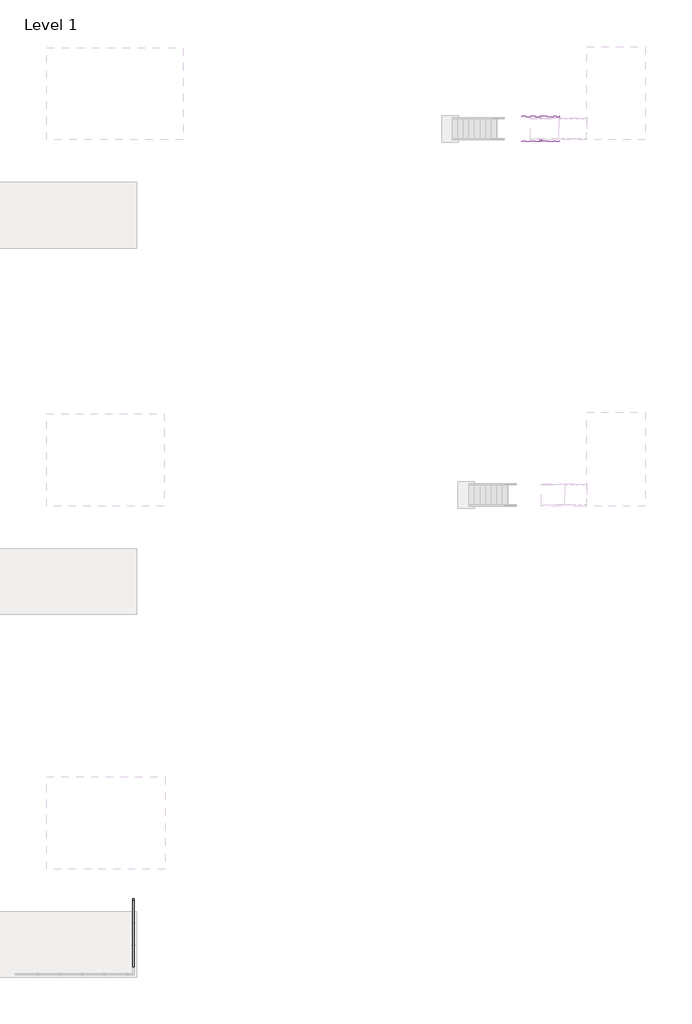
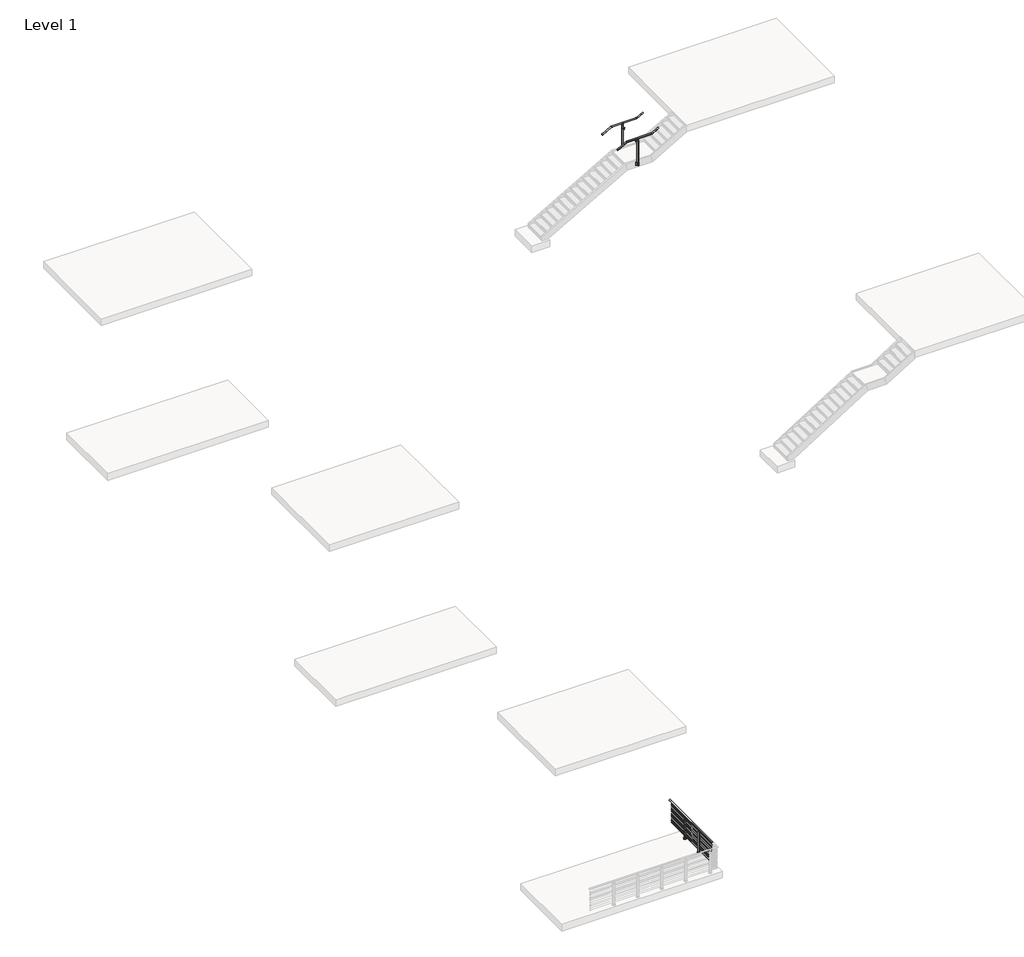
# One storey, part 15 of 26: 3 railings.
"""IFC4 building model written with IfcOpenShell, lengths in millimetres."""

from ifc_helpers import new_model, si_unit, point, frame, frame_2d, origin, origin_with_axes, place, context, project, spatial, polyline, circle_curve, ellipse_curve, trimmed, segment, composite_curve, outline, extrude, faceted_brep, element, save
from ifc_brep_helpers import plane_surface, cylinder_surface, advanced_brep

model = new_model("IFC4")

# Units and contexts
model_context = context("Model", 3, world=origin())
ifc_project = project(units=[si_unit("LENGTHUNIT", "METRE", prefix="MILLI")], contexts=[model_context])

# Site, building, storey
site = spatial("IfcSite", under=ifc_project)
building = spatial("IfcBuilding", under=site)
storey = spatial("IfcBuildingStorey", under=building, Name="Level 1", Elevation=0.0)

# Railings
placement = place(None, origin())
element("IfcRailing", 1, ObjectType="VIVA-CUBE-Cable-Core Mount-Straight", at=placement, inside=storey, context=model_context, shape_type="SolidModel", body=[
    advanced_brep(
    [(69909.4592968, -56726.8365969, 1054.1), (69858.6592968, -56726.8365969, 1054.1), (69909.4592968, -53678.8365969, 1054.1), (69858.6592968, -53678.8365969, 1054.1), (69909.4592968, -53577.2365969, 1054.1), (69858.6592968, -53577.2365969, 1054.1)],
    [
        (0, 1, circle_curve(frame((69884.0592968, -56726.8365969, 1054.1), z_axis=(0.0, -1.0, 0.0), x_axis=(-1.0, 0.0, 0.0)), 25.4)),
        (1, 0, circle_curve(frame((69884.0592968, -56726.8365969, 1054.1), z_axis=(0.0, -1.0, 0.0), x_axis=(-1.0, 0.0, 0.0)), 25.4)),
        (0, 2),
        (2, 3, circle_curve(frame((69884.0592968, -53678.8365969, 1054.1), z_axis=(0.0, -1.0, 0.0), x_axis=(-1.0, 0.0, 0.0)), 25.4)),
        (3, 1),
        (3, 2, circle_curve(frame((69884.0592968, -53678.8365969, 1054.1), z_axis=(0.0, -1.0, 0.0), x_axis=(-1.0, 0.0, 0.0)), 25.4)),
        (4, 5, circle_curve(frame((69884.0592968, -53577.2365969, 1054.1), z_axis=(0.0, 1.0, 0.0), x_axis=(-1.0, 0.0, 0.0)), 25.4)),
        (5, 4, circle_curve(frame((69884.0592968, -53577.2365969, 1054.1), z_axis=(0.0, 1.0, 0.0), x_axis=(-1.0, 0.0, 0.0)), 25.4)),
        (2, 4),
        (5, 3),
    ],
    [
        plane_surface(frame((69884.0592968, -56726.8365969, 1079.5), z_axis=(0.0, -1.0, 0.0), x_axis=(0.0, 0.0, 1.0))),
        cylinder_surface(frame((69884.0592968, -56726.8365969, 1054.1), z_axis=(0.0, -1.0, 0.0), x_axis=(-1.0, 0.0, 0.0)), 25.4),
        plane_surface(frame((69884.0592968, -53577.2365969, 1079.5), z_axis=(0.0, 1.0, 0.0), x_axis=(0.0, 0.0, 1.0))),
        cylinder_surface(frame((69884.0592968, -53678.8365969, 1054.1), z_axis=(0.0, -1.0, 0.0), x_axis=(-1.0, 0.0, 0.0)), 25.4),
    ],
    [
        (0, [[1, 2]]),
        (1, [[-1, 3, 4, 5]]),
        (1, [[-2, -5, 6, -3]]),
        (2, [[7, 8]]),
        (3, [[-4, 9, -8, 10]]),
        (3, [[-6, -10, -7, -9]]),
    ],
),
    extrude(outline(composite_curve([segment(trimmed(circle_curve(frame_2d((937.4124, 69884.0592968)), 2.3876), [point((937.4124, 69881.6716968))], [point((937.4124, 69886.4468968))], False, "CARTESIAN"), True, "CONTINUOUS"), segment(trimmed(circle_curve(frame_2d((937.4124, 69884.0592968)), 2.3876), [point((937.4124, 69886.4468968))], [point((937.4124, 69881.6716968))], False, "CARTESIAN"), True, "CONTINUOUS")], self_intersect=False)), frame((0.0, -56726.8365969, 0.0), z_axis=(0.0, 1.0, 0.0), x_axis=(0.0, 0.0, 1.0)), (0.0, 0.0, 1.0), 3048.0),
    extrude(outline(composite_curve([segment(trimmed(circle_curve(frame_2d((854.8624, 69884.0592968)), 2.3876), [point((854.8624, 69881.6716968))], [point((854.8624, 69886.4468968))], False, "CARTESIAN"), True, "CONTINUOUS"), segment(trimmed(circle_curve(frame_2d((854.8624, 69884.0592968)), 2.3876), [point((854.8624, 69886.4468968))], [point((854.8624, 69881.6716968))], False, "CARTESIAN"), True, "CONTINUOUS")], self_intersect=False)), frame((0.0, -56726.8365969, 0.0), z_axis=(0.0, 1.0, 0.0), x_axis=(0.0, 0.0, 1.0)), (0.0, 0.0, 1.0), 3048.0),
    extrude(outline(composite_curve([segment(trimmed(circle_curve(frame_2d((772.3124, 69884.0592968)), 2.3876), [point((772.3124, 69881.6716968))], [point((772.3124, 69886.4468968))], False, "CARTESIAN"), True, "CONTINUOUS"), segment(trimmed(circle_curve(frame_2d((772.3124, 69884.0592968)), 2.3876), [point((772.3124, 69886.4468968))], [point((772.3124, 69881.6716968))], False, "CARTESIAN"), True, "CONTINUOUS")], self_intersect=False)), frame((0.0, -56726.8365969, 0.0), z_axis=(0.0, 1.0, 0.0), x_axis=(0.0, 0.0, 1.0)), (0.0, 0.0, 1.0), 3048.0),
    extrude(outline(composite_curve([segment(trimmed(circle_curve(frame_2d((689.7624, 69884.0592968)), 2.3876), [point((689.7624, 69881.6716968))], [point((689.7624, 69886.4468968))], False, "CARTESIAN"), True, "CONTINUOUS"), segment(trimmed(circle_curve(frame_2d((689.7624, 69884.0592968)), 2.3876), [point((689.7624, 69886.4468968))], [point((689.7624, 69881.6716968))], False, "CARTESIAN"), True, "CONTINUOUS")], self_intersect=False)), frame((0.0, -56726.8365969, 0.0), z_axis=(0.0, 1.0, 0.0), x_axis=(0.0, 0.0, 1.0)), (0.0, 0.0, 1.0), 3048.0),
    extrude(outline(composite_curve([segment(trimmed(circle_curve(frame_2d((607.2124, 69884.0592968)), 2.3876), [point((607.2124, 69881.6716968))], [point((607.2124, 69886.4468968))], False, "CARTESIAN"), True, "CONTINUOUS"), segment(trimmed(circle_curve(frame_2d((607.2124, 69884.0592968)), 2.3876), [point((607.2124, 69886.4468968))], [point((607.2124, 69881.6716968))], False, "CARTESIAN"), True, "CONTINUOUS")], self_intersect=False)), frame((0.0, -56726.8365969, 0.0), z_axis=(0.0, 1.0, 0.0), x_axis=(0.0, 0.0, 1.0)), (0.0, 0.0, 1.0), 3048.0),
    extrude(outline(composite_curve([segment(trimmed(circle_curve(frame_2d((524.6624, 69884.0592968)), 2.3876), [point((524.6624, 69881.6716968))], [point((524.6624, 69886.4468968))], False, "CARTESIAN"), True, "CONTINUOUS"), segment(trimmed(circle_curve(frame_2d((524.6624, 69884.0592968)), 2.3876), [point((524.6624, 69886.4468968))], [point((524.6624, 69881.6716968))], False, "CARTESIAN"), True, "CONTINUOUS")], self_intersect=False)), frame((0.0, -56726.8365969, 0.0), z_axis=(0.0, 1.0, 0.0), x_axis=(0.0, 0.0, 1.0)), (0.0, 0.0, 1.0), 3048.0),
    extrude(outline(composite_curve([segment(trimmed(circle_curve(frame_2d((442.1124, 69884.0592968)), 2.3876), [point((442.1124, 69881.6716968))], [point((442.1124, 69886.4468968))], False, "CARTESIAN"), True, "CONTINUOUS"), segment(trimmed(circle_curve(frame_2d((442.1124, 69884.0592968)), 2.3876), [point((442.1124, 69886.4468968))], [point((442.1124, 69881.6716968))], False, "CARTESIAN"), True, "CONTINUOUS")], self_intersect=False)), frame((0.0, -56726.8365969, 0.0), z_axis=(0.0, 1.0, 0.0), x_axis=(0.0, 0.0, 1.0)), (0.0, 0.0, 1.0), 3048.0),
    extrude(outline(composite_curve([segment(trimmed(circle_curve(frame_2d((359.5624, 69884.0592968)), 2.3876), [point((359.5624, 69881.6716968))], [point((359.5624, 69886.4468968))], False, "CARTESIAN"), True, "CONTINUOUS"), segment(trimmed(circle_curve(frame_2d((359.5624, 69884.0592968)), 2.3876), [point((359.5624, 69886.4468968))], [point((359.5624, 69881.6716968))], False, "CARTESIAN"), True, "CONTINUOUS")], self_intersect=False)), frame((0.0, -56726.8365969, 0.0), z_axis=(0.0, 1.0, 0.0), x_axis=(0.0, 0.0, 1.0)), (0.0, 0.0, 1.0), 3048.0),
    extrude(outline(composite_curve([segment(trimmed(circle_curve(frame_2d((277.0124, 69884.0592968)), 2.3876), [point((277.0124, 69881.6716968))], [point((277.0124, 69886.4468968))], False, "CARTESIAN"), True, "CONTINUOUS"), segment(trimmed(circle_curve(frame_2d((277.0124, 69884.0592968)), 2.3876), [point((277.0124, 69886.4468968))], [point((277.0124, 69881.6716968))], False, "CARTESIAN"), True, "CONTINUOUS")], self_intersect=False)), frame((0.0, -56726.8365969, 0.0), z_axis=(0.0, 1.0, 0.0), x_axis=(0.0, 0.0, 1.0)), (0.0, 0.0, 1.0), 3048.0),
    extrude(outline(composite_curve([segment(trimmed(circle_curve(frame_2d((194.4624, 69884.0592968)), 2.3876), [point((194.4624, 69881.6716968))], [point((194.4624, 69886.4468968))], False, "CARTESIAN"), True, "CONTINUOUS"), segment(trimmed(circle_curve(frame_2d((194.4624, 69884.0592968)), 2.3876), [point((194.4624, 69886.4468968))], [point((194.4624, 69881.6716968))], False, "CARTESIAN"), True, "CONTINUOUS")], self_intersect=False)), frame((0.0, -56726.8365969, 0.0), z_axis=(0.0, 1.0, 0.0), x_axis=(0.0, 0.0, 1.0)), (0.0, 0.0, 1.0), 3048.0),
    extrude(outline(composite_curve([segment(trimmed(circle_curve(frame_2d((111.9124, 69884.0592968)), 2.3876), [point((111.9124, 69881.6716968))], [point((111.9124, 69886.4468968))], False, "CARTESIAN"), True, "CONTINUOUS"), segment(trimmed(circle_curve(frame_2d((111.9124, 69884.0592968)), 2.3876), [point((111.9124, 69886.4468968))], [point((111.9124, 69881.6716968))], False, "CARTESIAN"), True, "CONTINUOUS")], self_intersect=False)), frame((0.0, -56726.8365969, 0.0), z_axis=(0.0, 1.0, 0.0), x_axis=(0.0, 0.0, 1.0)), (0.0, 0.0, 1.0), 3048.0),
    extrude(outline(composite_curve([segment(trimmed(circle_curve(frame_2d((69884.0592968, -54694.4397219)), 63.5), [point((69947.5592968, -54694.4397219))], [point((69820.5592968, -54694.4397219))], False, "CARTESIAN"), True, "CONTINUOUS"), segment(trimmed(circle_curve(frame_2d((69884.0592968, -54694.4397219)), 63.5), [point((69820.5592968, -54694.4397219))], [point((69947.5592968, -54694.4397219))], False, "CARTESIAN"), True, "CONTINUOUS")], self_intersect=False), holes=[composite_curve([segment(trimmed(circle_curve(frame_2d((69919.5290406, -54729.9094657)), 4.7625), [point((69924.2915406, -54729.9094657))], [point((69914.7665406, -54729.9094657))], True, "CARTESIAN"), True, "CONTINUOUS"), segment(trimmed(circle_curve(frame_2d((69919.5290406, -54729.9094657)), 4.7625), [point((69914.7665406, -54729.9094657))], [point((69924.2915406, -54729.9094657))], True, "CARTESIAN"), True, "CONTINUOUS")], self_intersect=False), composite_curve([segment(trimmed(circle_curve(frame_2d((69848.5895529, -54729.9094657)), 4.7625), [point((69853.3520529, -54729.9094657))], [point((69843.8270529, -54729.9094657))], True, "CARTESIAN"), True, "CONTINUOUS"), segment(trimmed(circle_curve(frame_2d((69848.5895529, -54729.9094657)), 4.7625), [point((69843.8270529, -54729.9094657))], [point((69853.3520529, -54729.9094657))], True, "CARTESIAN"), True, "CONTINUOUS")], self_intersect=False), composite_curve([segment(trimmed(circle_curve(frame_2d((69919.5290406, -54658.969978)), 4.7625), [point((69924.2915406, -54658.969978))], [point((69914.7665406, -54658.969978))], True, "CARTESIAN"), True, "CONTINUOUS"), segment(trimmed(circle_curve(frame_2d((69919.5290406, -54658.969978)), 4.7625), [point((69914.7665406, -54658.969978))], [point((69924.2915406, -54658.969978))], True, "CARTESIAN"), True, "CONTINUOUS")], self_intersect=False), composite_curve([segment(trimmed(circle_curve(frame_2d((69848.5895529, -54658.969978)), 4.7625), [point((69853.3520529, -54658.969978))], [point((69843.8270529, -54658.969978))], True, "CARTESIAN"), True, "CONTINUOUS"), segment(trimmed(circle_curve(frame_2d((69848.5895529, -54658.969978)), 4.7625), [point((69843.8270529, -54658.969978))], [point((69853.3520529, -54658.969978))], True, "CARTESIAN"), True, "CONTINUOUS")], self_intersect=False)]), origin_with_axes(), (0.0, 0.0, 1.0), 25.4),
    faceted_brep([(69871.3592968, -54681.7397219, 997.2902749), (69871.3592968, -54707.1397219, 997.2902749), (69880.0905468, -54707.1397219, 997.2902749), (69880.0905468, -54681.7397219, 997.2902749), (69896.7592968, -54707.1397219, 997.2902749), (69896.7592968, -54681.7397219, 997.2902749), (69888.0280468, -54681.7397219, 997.2902749), (69888.0280468, -54707.1397219, 997.2902749), (69858.6592968, -54669.0397219, 941.1347854), (69909.4592968, -54669.0397219, 941.1347854), (69858.6592968, -54719.8397219, 941.1347854), (69909.4592968, -54719.8397219, 941.1347854), (69858.6592968, -54669.0397219, -88.9), (69909.4592968, -54669.0397219, -88.9), (69909.4592968, -54719.8397219, -88.9), (69858.6592968, -54719.8397219, -88.9), (69888.0280468, -54707.1397219, 1009.3306013), (69888.0280468, -54681.7397219, 1009.3306013), (69880.0905468, -54681.7397219, 1009.3306013), (69880.0905468, -54707.1397219, 1009.3306013)], [[[0, 1, 2, 3]], [[4, 5, 6, 7]], [[8, 0, 3, 6, 5, 9]], [[1, 0, 8, 10]], [[1, 10, 11, 4, 7, 2]], [[5, 4, 11, 9]], [[12, 13, 14, 15]], [[12, 15, 10, 8]], [[15, 14, 11, 10]], [[14, 13, 9, 11]], [[13, 12, 8, 9]], [[16, 17, 18, 19]], [[17, 16, 7, 6]], [[18, 17, 6, 3]], [[19, 18, 3, 2]], [[16, 19, 2, 7]]]),
    extrude(outline(composite_curve([segment(trimmed(circle_curve(frame_2d((1054.1433184, 69883.9625684)), 25.4345159), [point((1032.0284941, 69896.5263713))], [point((1031.9335733, 69871.5673346))], True, "CARTESIAN"), True, "CONTINUOUS"), segment(trimmed(circle_curve(frame_2d((1029.4310885, 69870.3226815)), 2.7949225), [point((1031.9335733, 69871.5673346))], [point((1027.0585031, 69868.8453764))], False, "CARTESIAN"), True, "CONTINUOUS"), segment(trimmed(circle_curve(frame_2d((1054.905945, 69884.0960315)), 31.75), [point((1027.0585031, 69868.8453764))], [point((1027.6392616, 69900.3622687))], False, "CARTESIAN"), True, "CONTINUOUS"), segment(trimmed(circle_curve(frame_2d((1029.5101807, 69898.073929)), 2.9558141), [point((1027.6392616, 69900.3622687))], [point((1032.0284941, 69896.5263713))], False, "CARTESIAN"), True, "CONTINUOUS")], self_intersect=False)), frame((0.0, -54739.6771219, 0.0), z_axis=(0.0, 1.0, 0.0), x_axis=(0.0, 0.0, 1.0)), (0.0, 0.0, 1.0), 90.4748),
    extrude(outline(composite_curve([segment(trimmed(circle_curve(frame_2d((-54667.371807, 1009.0006022)), 14.3679149), [point((-54667.371807, 1023.3685171))], [point((-54681.7397219, 1009.0006022))], True, "CARTESIAN"), True, "CONTINUOUS"), segment(trimmed(circle_curve(frame_2d((-54694.4397219, 1009.0006022)), 12.7), [point((-54681.7397219, 1009.0006022))], [point((-54707.1397219, 1009.0006022))], False, "CARTESIAN"), True, "CONTINUOUS"), segment(trimmed(circle_curve(frame_2d((-54721.5076367, 1009.0006022)), 14.3679149), [point((-54707.1397219, 1009.0006022))], [point((-54721.5076367, 1023.3685171))], True, "CARTESIAN"), True, "CONTINUOUS"), segment(polyline([(-54721.5076367, 1023.3685171), (-54667.371807, 1023.3685171)]), True, "CONTINUOUS")], self_intersect=False)), frame((69881.5192968, 0.0, 0.0), z_axis=(1.0, 0.0, 0.0), x_axis=(0.0, 1.0, 0.0)), (0.0, 0.0, 1.0), 5.08),
    extrude(outline(composite_curve([segment(trimmed(circle_curve(frame_2d((69884.0592968, -55710.4397219)), 63.5), [point((69947.5592968, -55710.4397219))], [point((69820.5592968, -55710.4397219))], False, "CARTESIAN"), True, "CONTINUOUS"), segment(trimmed(circle_curve(frame_2d((69884.0592968, -55710.4397219)), 63.5), [point((69820.5592968, -55710.4397219))], [point((69947.5592968, -55710.4397219))], False, "CARTESIAN"), True, "CONTINUOUS")], self_intersect=False), holes=[composite_curve([segment(trimmed(circle_curve(frame_2d((69919.5290406, -55745.9094657)), 4.7625), [point((69924.2915406, -55745.9094657))], [point((69914.7665406, -55745.9094657))], True, "CARTESIAN"), True, "CONTINUOUS"), segment(trimmed(circle_curve(frame_2d((69919.5290406, -55745.9094657)), 4.7625), [point((69914.7665406, -55745.9094657))], [point((69924.2915406, -55745.9094657))], True, "CARTESIAN"), True, "CONTINUOUS")], self_intersect=False), composite_curve([segment(trimmed(circle_curve(frame_2d((69848.5895529, -55745.9094657)), 4.7625), [point((69853.3520529, -55745.9094657))], [point((69843.8270529, -55745.9094657))], True, "CARTESIAN"), True, "CONTINUOUS"), segment(trimmed(circle_curve(frame_2d((69848.5895529, -55745.9094657)), 4.7625), [point((69843.8270529, -55745.9094657))], [point((69853.3520529, -55745.9094657))], True, "CARTESIAN"), True, "CONTINUOUS")], self_intersect=False), composite_curve([segment(trimmed(circle_curve(frame_2d((69919.5290406, -55674.969978)), 4.7625), [point((69924.2915406, -55674.969978))], [point((69914.7665406, -55674.969978))], True, "CARTESIAN"), True, "CONTINUOUS"), segment(trimmed(circle_curve(frame_2d((69919.5290406, -55674.969978)), 4.7625), [point((69914.7665406, -55674.969978))], [point((69924.2915406, -55674.969978))], True, "CARTESIAN"), True, "CONTINUOUS")], self_intersect=False), composite_curve([segment(trimmed(circle_curve(frame_2d((69848.5895529, -55674.969978)), 4.7625), [point((69853.3520529, -55674.969978))], [point((69843.8270529, -55674.969978))], True, "CARTESIAN"), True, "CONTINUOUS"), segment(trimmed(circle_curve(frame_2d((69848.5895529, -55674.969978)), 4.7625), [point((69843.8270529, -55674.969978))], [point((69853.3520529, -55674.969978))], True, "CARTESIAN"), True, "CONTINUOUS")], self_intersect=False)]), origin_with_axes(), (0.0, 0.0, 1.0), 25.4),
    faceted_brep([(69871.3592968, -55697.7397219, 997.2902749), (69871.3592968, -55723.1397219, 997.2902749), (69880.0905468, -55723.1397219, 997.2902749), (69880.0905468, -55697.7397219, 997.2902749), (69896.7592968, -55723.1397219, 997.2902749), (69896.7592968, -55697.7397219, 997.2902749), (69888.0280468, -55697.7397219, 997.2902749), (69888.0280468, -55723.1397219, 997.2902749), (69858.6592968, -55685.0397219, 941.1347854), (69909.4592968, -55685.0397219, 941.1347854), (69858.6592968, -55735.8397219, 941.1347854), (69909.4592968, -55735.8397219, 941.1347854), (69858.6592968, -55685.0397219, -88.9), (69909.4592968, -55685.0397219, -88.9), (69909.4592968, -55735.8397219, -88.9), (69858.6592968, -55735.8397219, -88.9), (69888.0280468, -55723.1397219, 1009.3306013), (69888.0280468, -55697.7397219, 1009.3306013), (69880.0905468, -55697.7397219, 1009.3306013), (69880.0905468, -55723.1397219, 1009.3306013)], [[[0, 1, 2, 3]], [[4, 5, 6, 7]], [[8, 0, 3, 6, 5, 9]], [[1, 0, 8, 10]], [[1, 10, 11, 4, 7, 2]], [[5, 4, 11, 9]], [[12, 13, 14, 15]], [[12, 15, 10, 8]], [[15, 14, 11, 10]], [[14, 13, 9, 11]], [[13, 12, 8, 9]], [[16, 17, 18, 19]], [[17, 16, 7, 6]], [[18, 17, 6, 3]], [[19, 18, 3, 2]], [[16, 19, 2, 7]]]),
    extrude(outline(composite_curve([segment(trimmed(circle_curve(frame_2d((1054.1433184, 69883.9625684)), 25.4345159), [point((1032.0284941, 69896.5263713))], [point((1031.9335733, 69871.5673346))], True, "CARTESIAN"), True, "CONTINUOUS"), segment(trimmed(circle_curve(frame_2d((1029.4310885, 69870.3226815)), 2.7949225), [point((1031.9335733, 69871.5673346))], [point((1027.0585031, 69868.8453764))], False, "CARTESIAN"), True, "CONTINUOUS"), segment(trimmed(circle_curve(frame_2d((1054.905945, 69884.0960315)), 31.75), [point((1027.0585031, 69868.8453764))], [point((1027.6392616, 69900.3622687))], False, "CARTESIAN"), True, "CONTINUOUS"), segment(trimmed(circle_curve(frame_2d((1029.5101807, 69898.073929)), 2.9558141), [point((1027.6392616, 69900.3622687))], [point((1032.0284941, 69896.5263713))], False, "CARTESIAN"), True, "CONTINUOUS")], self_intersect=False)), frame((0.0, -55755.6771219, 0.0), z_axis=(0.0, 1.0, 0.0), x_axis=(0.0, 0.0, 1.0)), (0.0, 0.0, 1.0), 90.4748),
    extrude(outline(composite_curve([segment(trimmed(circle_curve(frame_2d((-55683.371807, 1009.0006022)), 14.3679149), [point((-55683.371807, 1023.3685171))], [point((-55697.7397219, 1009.0006022))], True, "CARTESIAN"), True, "CONTINUOUS"), segment(trimmed(circle_curve(frame_2d((-55710.4397219, 1009.0006022)), 12.7), [point((-55697.7397219, 1009.0006022))], [point((-55723.1397219, 1009.0006022))], False, "CARTESIAN"), True, "CONTINUOUS"), segment(trimmed(circle_curve(frame_2d((-55737.5076367, 1009.0006022)), 14.3679149), [point((-55723.1397219, 1009.0006022))], [point((-55737.5076367, 1023.3685171))], True, "CARTESIAN"), True, "CONTINUOUS"), segment(polyline([(-55737.5076367, 1023.3685171), (-55683.371807, 1023.3685171)]), True, "CONTINUOUS")], self_intersect=False)), frame((69881.5192968, 0.0, 0.0), z_axis=(1.0, 0.0, 0.0), x_axis=(0.0, 1.0, 0.0)), (0.0, 0.0, 1.0), 5.08),
])
element("IfcRailing", 2, ObjectType="VIVA-CUBE-Wire Mesh-Fascia Mount-Stair-Landing", at=placement, inside=storey, context=model_context, shape_type="SolidModel", body=[
    advanced_brep(
    [(87644.1145262, -17874.6446002, 3009.6740933), (87644.1145262, -17823.8446002, 3009.6740933), (88031.8598629, -17874.6446002, 3231.2428571), (88031.8598629, -17823.8446002, 3231.2428571), (89098.6598629, -17874.6446002, 3231.2428571), (89098.6598629, -17823.8446002, 3231.2428571), (89368.1395262, -17874.6446002, 3385.2312362), (89368.1395262, -17823.8446002, 3385.2312362)],
    [
        (0, 1, ellipse_curve(frame((87644.1145262, -17849.2446002, 3009.6740933), z_axis=(-1.0, 0.0, 0.0), x_axis=(0.0, 0.0, -1.0)), 29.2544781, 25.4)),
        (1, 0, ellipse_curve(frame((87644.1145262, -17849.2446002, 3009.6740933), z_axis=(-1.0, 0.0, 0.0), x_axis=(0.0, 0.0, -1.0)), 29.2544781, 25.4)),
        (0, 2),
        (2, 3, ellipse_curve(frame((88031.8598629, -17849.2446002, 3231.2428571), z_axis=(-0.966499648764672, 0.0, -0.25666793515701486), x_axis=(0.2566679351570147, 0.0, -0.966499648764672)), 26.2804027, 25.4)),
        (3, 1),
        (3, 2, ellipse_curve(frame((88031.8598629, -17849.2446002, 3231.2428571), z_axis=(-0.966499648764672, 0.0, -0.25666793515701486), x_axis=(0.2566679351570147, 0.0, -0.966499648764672)), 26.2804027, 25.4)),
        (2, 4),
        (4, 5, ellipse_curve(frame((89098.6598629, -17849.2446002, 3231.2428571), z_axis=(-0.9664996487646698, 0.0, -0.2566679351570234), x_axis=(-0.2566679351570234, 0.0, 0.9664996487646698)), 26.2804027, 25.4)),
        (5, 3),
        (5, 4, ellipse_curve(frame((89098.6598629, -17849.2446002, 3231.2428571), z_axis=(-0.9664996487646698, 0.0, -0.2566679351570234), x_axis=(-0.2566679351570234, 0.0, 0.9664996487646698)), 26.2804027, 25.4)),
        (6, 7, ellipse_curve(frame((89368.1395262, -17849.2446002, 3385.2312362), z_axis=(1.0, 0.0, 0.0), x_axis=(0.0, 0.0, -1.0)), 29.2544781, 25.4)),
        (7, 6, ellipse_curve(frame((89368.1395262, -17849.2446002, 3385.2312362), z_axis=(1.0, 0.0, 0.0), x_axis=(0.0, 0.0, -1.0)), 29.2544781, 25.4)),
        (4, 6),
        (7, 5),
    ],
    [
        plane_surface(frame((87644.1145262, -17849.2446002, 3038.9285714), z_axis=(-1.0, 0.0, 0.0), x_axis=(0.0, 1.0, 0.0))),
        cylinder_surface(frame((87656.7164552, -17849.2446002, 3016.8751956), z_axis=(-0.868243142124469, 0.0, -0.49613893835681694), x_axis=(0.0, 1.0, 0.0)), 25.4),
        cylinder_surface(frame((88025.1145262, -17849.2446002, 3231.2428571), z_axis=(-1.0, 0.0, 0.0), x_axis=(0.0, 1.0, 0.0)), 25.4),
        plane_surface(frame((89368.1395262, -17849.2446002, 3414.4857143), z_axis=(1.0, 0.0, 0.0), x_axis=(0.0, 1.0, 0.0))),
        cylinder_surface(frame((89104.5164552, -17849.2446002, 3234.5894813), z_axis=(-0.8682431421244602, 0.0, -0.4961389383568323), x_axis=(0.0, 1.0, 0.0)), 25.4),
    ],
    [
        (0, [[1, 2]]),
        (1, [[-1, 3, 4, 5]]),
        (1, [[-2, -5, 6, -3]]),
        (2, [[-4, 7, 8, 9]]),
        (2, [[-6, -9, 10, -7]]),
        (3, [[11, 12]]),
        (4, [[-8, 13, -12, 14]]),
        (4, [[-10, -14, -11, -13]]),
    ],
),
    extrude(outline(composite_curve([segment(trimmed(circle_curve(frame_2d((0.0, 7.0)), 7.0), [point((0.0, 14.0))], [point((0.0, 0.0))], False, "CARTESIAN"), True, "CONTINUOUS"), segment(trimmed(circle_curve(frame_2d((0.0, 7.0)), 7.0), [point((0.0, 0.0))], [point((0.0, 14.0))], False, "CARTESIAN"), True, "CONTINUOUS")], self_intersect=False)), frame((88506.6192867, -17934.9284259, 2972.3156836), z_axis=(-0.0012555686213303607, 0.0, 0.999999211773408), x_axis=(-0.999999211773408, 0.0, -0.0012555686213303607)), (0.0, 0.0, 1.0), 75.97),
    extrude(outline(composite_curve([segment(polyline([(-17929.6467697, 3056.8509005), (-17928.6203801, 3055.8335135)]), True, "CONTINUOUS"), segment(trimmed(circle_curve(frame_2d((-17929.676358, 3054.7681916)), 1.5), [point((-17928.6203801, 3055.8335135))], [point((-17928.6909565, 3053.6372698))], False, "CARTESIAN"), True, "CONTINUOUS"), segment(trimmed(circle_curve(frame_2d((-17943.176358, 3070.2618193)), 22.05), [point((-17928.6909565, 3053.6372698))], [point((-17957.6617594, 3053.6372698))], False, "CARTESIAN"), True, "CONTINUOUS"), segment(trimmed(circle_curve(frame_2d((-17956.676358, 3054.7681916)), 1.5), [point((-17957.6617594, 3053.6372698))], [point((-17957.7323358, 3055.8335135))], False, "CARTESIAN"), True, "CONTINUOUS"), segment(polyline([(-17957.7323358, 3055.8335135), (-17956.7059462, 3056.8509005)]), True, "CONTINUOUS"), segment(trimmed(circle_curve(frame_2d((-17943.176358, 3070.2618193)), 19.05), [point((-17956.7059462, 3056.8509005))], [point((-17929.6467697, 3056.8509005))], True, "CARTESIAN"), True, "CONTINUOUS")], self_intersect=False)), frame((88468.4477528, 0.0, 0.0), z_axis=(1.0, 0.0, 0.0), x_axis=(0.0, 1.0, 0.0)), (0.0, 0.0, 1.0), 74.5229187),
    extrude(outline(composite_curve([segment(trimmed(circle_curve(frame_2d((2999.1922796, 88506.5593832)), 12.5), [point((2999.1922796, 88519.0593832))], [point((2999.1922796, 88494.0593832))], False, "CARTESIAN"), True, "CONTINUOUS"), segment(trimmed(circle_curve(frame_2d((2999.1922796, 88506.5593832)), 12.5), [point((2999.1922796, 88494.0593832))], [point((2999.1922796, 88519.0593832))], False, "CARTESIAN"), True, "CONTINUOUS")], self_intersect=False)), frame((0.0, -17956.7059462, 0.0), z_axis=(0.0, 1.0, 0.0), x_axis=(0.0, 0.0, 1.0)), (0.0, 0.0, 1.0), 82.061346),
    extrude(outline(polyline([(88570.0239012, -17903.7576358), (88443.0239012, -17903.7576358), (88443.0239012, -17893.7754358), (88570.0239012, -17893.7754358), (88570.0239012, -17903.7576358)])), frame((0.0, 0.0, 1999.3428571), z_axis=(0.0, 0.0, 1.0), x_axis=(1.0, 0.0, 0.0)), (0.0, 0.0, 1.0), 152.4),
    extrude(outline(composite_curve([segment(polyline([(2151.7428571, 88567.4839012), (2151.7428571, 88445.5639012)]), True, "CONTINUOUS"), segment(trimmed(circle_curve(frame_2d((2149.2028571, 88445.5639012)), 2.54), [point((2151.7428571, 88445.5639012))], [point((2149.2028571, 88443.0239012))], False, "CARTESIAN"), True, "CONTINUOUS"), segment(polyline([(2149.2028571, 88443.0239012), (2001.8828571, 88443.0239012)]), True, "CONTINUOUS"), segment(trimmed(circle_curve(frame_2d((2001.8828571, 88445.5639012)), 2.54), [point((2001.8828571, 88443.0239012))], [point((1999.3428571, 88445.5639012))], False, "CARTESIAN"), True, "CONTINUOUS"), segment(polyline([(1999.3428571, 88445.5639012), (1999.3428571, 88567.4839012)]), True, "CONTINUOUS"), segment(trimmed(circle_curve(frame_2d((2001.8828571, 88567.4839012)), 2.54), [point((1999.3428571, 88567.4839012))], [point((2001.8828571, 88570.0239012))], False, "CARTESIAN"), True, "CONTINUOUS"), segment(polyline([(2001.8828571, 88570.0239012), (2149.2028571, 88570.0239012)]), True, "CONTINUOUS"), segment(trimmed(circle_curve(frame_2d((2149.2028571, 88567.4839012)), 2.54), [point((2149.2028571, 88570.0239012))], [point((2151.7428571, 88567.4839012))], False, "CARTESIAN"), True, "CONTINUOUS")], self_intersect=False), holes=[composite_curve([segment(trimmed(circle_curve(frame_2d((2132.6928571, 88462.0739012)), 5.55625), [point((2132.6928571, 88467.6301512))], [point((2132.6928571, 88456.5176512))], True, "CARTESIAN"), True, "CONTINUOUS"), segment(trimmed(circle_curve(frame_2d((2132.6928571, 88462.0739012)), 5.55625), [point((2132.6928571, 88456.5176512))], [point((2132.6928571, 88467.6301512))], True, "CARTESIAN"), True, "CONTINUOUS")], self_intersect=False), composite_curve([segment(trimmed(circle_curve(frame_2d((2132.6928571, 88550.9739012)), 5.55625), [point((2132.6928571, 88556.5301512))], [point((2132.6928571, 88545.4176512))], True, "CARTESIAN"), True, "CONTINUOUS"), segment(trimmed(circle_curve(frame_2d((2132.6928571, 88550.9739012)), 5.55625), [point((2132.6928571, 88545.4176512))], [point((2132.6928571, 88556.5301512))], True, "CARTESIAN"), True, "CONTINUOUS")], self_intersect=False), composite_curve([segment(trimmed(circle_curve(frame_2d((2018.3928571, 88550.9739012)), 5.55625), [point((2018.3928571, 88556.5301512))], [point((2018.3928571, 88545.4176512))], True, "CARTESIAN"), True, "CONTINUOUS"), segment(trimmed(circle_curve(frame_2d((2018.3928571, 88550.9739012)), 5.55625), [point((2018.3928571, 88545.4176512))], [point((2018.3928571, 88556.5301512))], True, "CARTESIAN"), True, "CONTINUOUS")], self_intersect=False), composite_curve([segment(trimmed(circle_curve(frame_2d((2018.3928571, 88462.0739012)), 5.55625), [point((2018.3928571, 88467.6301512))], [point((2018.3928571, 88456.5176512))], True, "CARTESIAN"), True, "CONTINUOUS"), segment(trimmed(circle_curve(frame_2d((2018.3928571, 88462.0739012)), 5.55625), [point((2018.3928571, 88456.5176512))], [point((2018.3928571, 88467.6301512))], True, "CARTESIAN"), True, "CONTINUOUS")], self_intersect=False)]), frame((0.0, -17893.7754358, 0.0), z_axis=(0.0, 1.0, 0.0), x_axis=(0.0, 0.0, 1.0)), (0.0, 0.0, 1.0), 9.9822),
    extrude(outline(polyline([(88474.7739012, -17893.7754358), (88474.7739012, -17817.4946002), (88538.2739012, -17817.4946002), (88538.2739012, -17893.7754358), (88474.7739012, -17893.7754358)])), frame((0.0, 0.0, 2026.3303571), z_axis=(0.0, 0.0, 1.0), x_axis=(1.0, 0.0, 0.0)), (0.0, 0.0, 1.0), 9.5123),
    extrude(outline(polyline([(88474.7739012, -17893.7754358), (88474.7739012, -17817.4946002), (88538.2739012, -17817.4946002), (88538.2739012, -17893.7754358), (88474.7739012, -17893.7754358)])), frame((0.0, 0.0, 2115.2303571), z_axis=(0.0, 0.0, 1.0), x_axis=(1.0, 0.0, 0.0)), (0.0, 0.0, 1.0), 9.525),
    extrude(outline(composite_curve([segment(trimmed(circle_curve(frame_2d((2999.1922796, 88506.5593832)), 12.5), [point((2999.1922796, 88494.0593832))], [point((2999.1922796, 88519.0593832))], False, "CARTESIAN"), True, "CONTINUOUS"), segment(trimmed(circle_curve(frame_2d((2999.1922796, 88506.5593832)), 12.5), [point((2999.1922796, 88519.0593832))], [point((2999.1922796, 88494.0593832))], False, "CARTESIAN"), True, "CONTINUOUS")], self_intersect=False)), frame((0.0, -17823.8446002, 0.0), z_axis=(0.0, 1.0, 0.0), x_axis=(0.0, 0.0, 1.0)), (0.0, 0.0, 1.0), 7.62),
    faceted_brep([(88519.2239012, -17861.9446002, 3174.433132), (88519.2239012, -17853.2133502, 3174.433132), (88493.8239012, -17853.2133502, 3174.433132), (88493.8239012, -17861.9446002, 3174.433132), (88493.8239012, -17836.5446002, 3174.433132), (88493.8239012, -17845.2758502, 3174.433132), (88519.2239012, -17845.2758502, 3174.433132), (88519.2239012, -17836.5446002, 3174.433132), (88531.9239012, -17874.6446002, 3118.2776425), (88531.9239012, -17823.8446002, 3118.2776425), (88481.1239012, -17874.6446002, 3118.2776425), (88481.1239012, -17823.8446002, 3118.2776425), (88531.9239012, -17874.6446002, 2035.8426571), (88481.1239012, -17874.6446002, 2035.8426571), (88481.1239012, -17823.8446002, 2035.8426571), (88531.9239012, -17823.8446002, 2035.8426571), (88493.8239012, -17845.2758502, 3186.4734584), (88493.8239012, -17853.2133502, 3186.4734584), (88519.2239012, -17853.2133502, 3186.4734584), (88519.2239012, -17845.2758502, 3186.4734584)], [[[0, 1, 2, 3]], [[4, 5, 6, 7]], [[8, 9, 7, 6, 1, 0]], [[3, 10, 8, 0]], [[3, 2, 5, 4, 11, 10]], [[7, 9, 11, 4]], [[12, 13, 14, 15]], [[12, 8, 10, 13]], [[13, 10, 11, 14]], [[14, 11, 9, 15]], [[15, 9, 8, 12]], [[16, 17, 18, 19]], [[19, 6, 5, 16]], [[18, 1, 6, 19]], [[17, 2, 1, 18]], [[16, 5, 2, 17]]]),
    extrude(outline(composite_curve([segment(trimmed(circle_curve(frame_2d((-17835.229968, 3206.6530378)), 2.9558141), [point((-17836.7775257, 3209.1713512))], [point((-17832.9416282, 3204.7821187))], False, "CARTESIAN"), True, "CONTINUOUS"), segment(trimmed(circle_curve(frame_2d((-17849.2078655, 3232.0488022)), 31.75), [point((-17832.9416282, 3204.7821187))], [point((-17864.4585205, 3204.2013603))], False, "CARTESIAN"), True, "CONTINUOUS"), segment(trimmed(circle_curve(frame_2d((-17862.9812154, 3206.5739456)), 2.7949225), [point((-17864.4585205, 3204.2013603))], [point((-17861.7365623, 3209.0764304))], False, "CARTESIAN"), True, "CONTINUOUS"), segment(trimmed(circle_curve(frame_2d((-17849.3413285, 3231.2861755)), 25.4345159), [point((-17861.7365623, 3209.0764304))], [point((-17836.7775257, 3209.1713512))], True, "CARTESIAN"), True, "CONTINUOUS")], self_intersect=False)), frame((88461.2865012, 0.0, 0.0), z_axis=(1.0, 0.0, 0.0), x_axis=(0.0, 1.0, 0.0)), (0.0, 0.0, 1.0), 90.4748),
    extrude(outline(composite_curve([segment(polyline([(3200.5113742, 88533.5918161), (3200.5113742, 88479.4559863)]), True, "CONTINUOUS"), segment(trimmed(circle_curve(frame_2d((3186.1434593, 88479.4559863)), 14.3679149), [point((3200.5113742, 88479.4559863))], [point((3186.1434593, 88493.8239012))], True, "CARTESIAN"), True, "CONTINUOUS"), segment(trimmed(circle_curve(frame_2d((3186.1434593, 88506.5239012)), 12.7), [point((3186.1434593, 88493.8239012))], [point((3186.1434593, 88519.2239012))], False, "CARTESIAN"), True, "CONTINUOUS"), segment(trimmed(circle_curve(frame_2d((3186.1434593, 88533.5918161)), 14.3679149), [point((3186.1434593, 88519.2239012))], [point((3200.5113742, 88533.5918161))], True, "CARTESIAN"), True, "CONTINUOUS")], self_intersect=False)), frame((0.0, -17851.7846002, 0.0), z_axis=(0.0, 1.0, 0.0), x_axis=(0.0, 0.0, 1.0)), (0.0, 0.0, 1.0), 5.08),
])
element("IfcRailing", 3, ObjectType="VIVA-CUBE-Wire Mesh-Fascia Mount-Stair-Landing", at=placement, inside=storey, context=model_context, shape_type="SolidModel", body=[
    advanced_brep(
    [(87644.1145262, -18999.1534002, 3009.6740933), (87644.1145262, -18948.3534002, 3009.6740933), (88031.8598629, -18999.1534002, 3231.2428571), (88031.8598629, -18948.3534002, 3231.2428571), (89098.6598629, -18999.1534002, 3231.2428571), (89098.6598629, -18948.3534002, 3231.2428571), (89368.1395262, -18999.1534002, 3385.2312362), (89368.1395262, -18948.3534002, 3385.2312362)],
    [
        (0, 1, ellipse_curve(frame((87644.1145262, -18973.7534002, 3009.6740933), z_axis=(-1.0, 0.0, 0.0), x_axis=(0.0, 0.0, -1.0)), 29.2544781, 25.4)),
        (1, 0, ellipse_curve(frame((87644.1145262, -18973.7534002, 3009.6740933), z_axis=(-1.0, 0.0, 0.0), x_axis=(0.0, 0.0, -1.0)), 29.2544781, 25.4)),
        (0, 2),
        (2, 3, ellipse_curve(frame((88031.8598629, -18973.7534002, 3231.2428571), z_axis=(-0.966499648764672, 0.0, -0.25666793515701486), x_axis=(0.2566679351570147, 0.0, -0.966499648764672)), 26.2804027, 25.4)),
        (3, 1),
        (3, 2, ellipse_curve(frame((88031.8598629, -18973.7534002, 3231.2428571), z_axis=(-0.966499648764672, 0.0, -0.25666793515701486), x_axis=(0.2566679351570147, 0.0, -0.966499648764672)), 26.2804027, 25.4)),
        (2, 4),
        (4, 5, ellipse_curve(frame((89098.6598629, -18973.7534002, 3231.2428571), z_axis=(-0.9664996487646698, 0.0, -0.2566679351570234), x_axis=(-0.2566679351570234, 0.0, 0.9664996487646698)), 26.2804027, 25.4)),
        (5, 3),
        (5, 4, ellipse_curve(frame((89098.6598629, -18973.7534002, 3231.2428571), z_axis=(-0.9664996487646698, 0.0, -0.2566679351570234), x_axis=(-0.2566679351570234, 0.0, 0.9664996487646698)), 26.2804027, 25.4)),
        (6, 7, ellipse_curve(frame((89368.1395262, -18973.7534002, 3385.2312362), z_axis=(1.0, 0.0, 0.0), x_axis=(0.0, 0.0, -1.0)), 29.2544781, 25.4)),
        (7, 6, ellipse_curve(frame((89368.1395262, -18973.7534002, 3385.2312362), z_axis=(1.0, 0.0, 0.0), x_axis=(0.0, 0.0, -1.0)), 29.2544781, 25.4)),
        (4, 6),
        (7, 5),
    ],
    [
        plane_surface(frame((87644.1145262, -18973.7534002, 3038.9285714), z_axis=(-1.0, 0.0, 0.0), x_axis=(0.0, 1.0, 0.0))),
        cylinder_surface(frame((87656.7164552, -18973.7534002, 3016.8751956), z_axis=(-0.868243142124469, 0.0, -0.49613893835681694), x_axis=(0.0, 1.0, 0.0)), 25.4),
        cylinder_surface(frame((88025.1145262, -18973.7534002, 3231.2428571), z_axis=(-1.0, 0.0, 0.0), x_axis=(0.0, 1.0, 0.0)), 25.4),
        plane_surface(frame((89368.1395262, -18973.7534002, 3414.4857143), z_axis=(1.0, 0.0, 0.0), x_axis=(0.0, 1.0, 0.0))),
        cylinder_surface(frame((89104.5164552, -18973.7534002, 3234.5894813), z_axis=(-0.8682431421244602, 0.0, -0.4961389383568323), x_axis=(0.0, 1.0, 0.0)), 25.4),
    ],
    [
        (0, [[1, 2]]),
        (1, [[-1, 3, 4, 5]]),
        (1, [[-2, -5, 6, -3]]),
        (2, [[-4, 7, 8, 9]]),
        (2, [[-6, -9, 10, -7]]),
        (3, [[11, 12]]),
        (4, [[-8, 13, -12, 14]]),
        (4, [[-10, -14, -11, -13]]),
    ],
),
    extrude(outline(composite_curve([segment(trimmed(circle_curve(frame_2d((0.0, -7.0)), 7.0), [point((0.0, -14.0))], [point((0.0, 0.0))], False, "CARTESIAN"), True, "CONTINUOUS"), segment(trimmed(circle_curve(frame_2d((0.0, -7.0)), 7.0), [point((0.0, 0.0))], [point((0.0, -14.0))], False, "CARTESIAN"), True, "CONTINUOUS")], self_intersect=False)), frame((88506.6192867, -18888.0695744, 2972.3156836), z_axis=(-0.0012555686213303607, 0.0, 0.999999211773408), x_axis=(-0.999999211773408, 0.0, -0.0012555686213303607)), (0.0, 0.0, 1.0), 75.97),
    extrude(outline(composite_curve([segment(trimmed(circle_curve(frame_2d((-18879.8216424, 3070.2618193)), 19.05), [point((-18893.3512306, 3056.8509005))], [point((-18866.2920541, 3056.8509005))], True, "CARTESIAN"), True, "CONTINUOUS"), segment(polyline([(-18866.2920541, 3056.8509005), (-18865.2656645, 3055.8335135)]), True, "CONTINUOUS"), segment(trimmed(circle_curve(frame_2d((-18866.3216424, 3054.7681916)), 1.5), [point((-18865.2656645, 3055.8335135))], [point((-18865.3362409, 3053.6372698))], False, "CARTESIAN"), True, "CONTINUOUS"), segment(trimmed(circle_curve(frame_2d((-18879.8216424, 3070.2618193)), 22.05), [point((-18865.3362409, 3053.6372698))], [point((-18894.3070438, 3053.6372698))], False, "CARTESIAN"), True, "CONTINUOUS"), segment(trimmed(circle_curve(frame_2d((-18893.3216424, 3054.7681916)), 1.5), [point((-18894.3070438, 3053.6372698))], [point((-18894.3776202, 3055.8335135))], False, "CARTESIAN"), True, "CONTINUOUS"), segment(polyline([(-18894.3776202, 3055.8335135), (-18893.3512306, 3056.8509005)]), True, "CONTINUOUS")], self_intersect=False)), frame((88468.4477528, 0.0, 0.0), z_axis=(1.0, 0.0, 0.0), x_axis=(0.0, 1.0, 0.0)), (0.0, 0.0, 1.0), 74.5229187),
    extrude(outline(composite_curve([segment(trimmed(circle_curve(frame_2d((2999.1922796, 88506.5593832)), 12.5), [point((2999.1922796, 88519.0593832))], [point((2999.1922796, 88494.0593832))], False, "CARTESIAN"), True, "CONTINUOUS"), segment(trimmed(circle_curve(frame_2d((2999.1922796, 88506.5593832)), 12.5), [point((2999.1922796, 88494.0593832))], [point((2999.1922796, 88519.0593832))], False, "CARTESIAN"), True, "CONTINUOUS")], self_intersect=False)), frame((0.0, -18948.3534002, 0.0), z_axis=(0.0, 1.0, 0.0), x_axis=(0.0, 0.0, 1.0)), (0.0, 0.0, 1.0), 82.061346),
    extrude(outline(polyline([(88570.0239012, -18919.2403646), (88570.0239012, -18929.2225646), (88443.0239012, -18929.2225646), (88443.0239012, -18919.2403646), (88570.0239012, -18919.2403646)])), frame((0.0, 0.0, 1999.3428571), z_axis=(0.0, 0.0, 1.0), x_axis=(1.0, 0.0, 0.0)), (0.0, 0.0, 1.0), 152.4),
    extrude(outline(composite_curve([segment(polyline([(2151.7428571, 88567.4839012), (2151.7428571, 88445.5639012)]), True, "CONTINUOUS"), segment(trimmed(circle_curve(frame_2d((2149.2028571, 88445.5639012)), 2.54), [point((2151.7428571, 88445.5639012))], [point((2149.2028571, 88443.0239012))], False, "CARTESIAN"), True, "CONTINUOUS"), segment(polyline([(2149.2028571, 88443.0239012), (2001.8828571, 88443.0239012)]), True, "CONTINUOUS"), segment(trimmed(circle_curve(frame_2d((2001.8828571, 88445.5639012)), 2.54), [point((2001.8828571, 88443.0239012))], [point((1999.3428571, 88445.5639012))], False, "CARTESIAN"), True, "CONTINUOUS"), segment(polyline([(1999.3428571, 88445.5639012), (1999.3428571, 88567.4839012)]), True, "CONTINUOUS"), segment(trimmed(circle_curve(frame_2d((2001.8828571, 88567.4839012)), 2.54), [point((1999.3428571, 88567.4839012))], [point((2001.8828571, 88570.0239012))], False, "CARTESIAN"), True, "CONTINUOUS"), segment(polyline([(2001.8828571, 88570.0239012), (2149.2028571, 88570.0239012)]), True, "CONTINUOUS"), segment(trimmed(circle_curve(frame_2d((2149.2028571, 88567.4839012)), 2.54), [point((2149.2028571, 88570.0239012))], [point((2151.7428571, 88567.4839012))], False, "CARTESIAN"), True, "CONTINUOUS")], self_intersect=False), holes=[composite_curve([segment(trimmed(circle_curve(frame_2d((2132.6928571, 88462.0739012)), 5.55625), [point((2132.6928571, 88467.6301512))], [point((2132.6928571, 88456.5176512))], True, "CARTESIAN"), True, "CONTINUOUS"), segment(trimmed(circle_curve(frame_2d((2132.6928571, 88462.0739012)), 5.55625), [point((2132.6928571, 88456.5176512))], [point((2132.6928571, 88467.6301512))], True, "CARTESIAN"), True, "CONTINUOUS")], self_intersect=False), composite_curve([segment(trimmed(circle_curve(frame_2d((2132.6928571, 88550.9739012)), 5.55625), [point((2132.6928571, 88556.5301512))], [point((2132.6928571, 88545.4176512))], True, "CARTESIAN"), True, "CONTINUOUS"), segment(trimmed(circle_curve(frame_2d((2132.6928571, 88550.9739012)), 5.55625), [point((2132.6928571, 88545.4176512))], [point((2132.6928571, 88556.5301512))], True, "CARTESIAN"), True, "CONTINUOUS")], self_intersect=False), composite_curve([segment(trimmed(circle_curve(frame_2d((2018.3928571, 88550.9739012)), 5.55625), [point((2018.3928571, 88556.5301512))], [point((2018.3928571, 88545.4176512))], True, "CARTESIAN"), True, "CONTINUOUS"), segment(trimmed(circle_curve(frame_2d((2018.3928571, 88550.9739012)), 5.55625), [point((2018.3928571, 88545.4176512))], [point((2018.3928571, 88556.5301512))], True, "CARTESIAN"), True, "CONTINUOUS")], self_intersect=False), composite_curve([segment(trimmed(circle_curve(frame_2d((2018.3928571, 88462.0739012)), 5.55625), [point((2018.3928571, 88467.6301512))], [point((2018.3928571, 88456.5176512))], True, "CARTESIAN"), True, "CONTINUOUS"), segment(trimmed(circle_curve(frame_2d((2018.3928571, 88462.0739012)), 5.55625), [point((2018.3928571, 88456.5176512))], [point((2018.3928571, 88467.6301512))], True, "CARTESIAN"), True, "CONTINUOUS")], self_intersect=False)]), frame((0.0, -18939.2047646, 0.0), z_axis=(0.0, 1.0, 0.0), x_axis=(0.0, 0.0, 1.0)), (0.0, 0.0, 1.0), 9.9822),
    extrude(outline(polyline([(88474.7739012, -18929.2225646), (88538.2739012, -18929.2225646), (88538.2739012, -19005.5034002), (88474.7739012, -19005.5034002), (88474.7739012, -18929.2225646)])), frame((0.0, 0.0, 2026.3303571), z_axis=(0.0, 0.0, 1.0), x_axis=(1.0, 0.0, 0.0)), (0.0, 0.0, 1.0), 9.5123),
    extrude(outline(polyline([(88474.7739012, -18929.2225646), (88538.2739012, -18929.2225646), (88538.2739012, -19005.5034002), (88474.7739012, -19005.5034002), (88474.7739012, -18929.2225646)])), frame((0.0, 0.0, 2115.2303571), z_axis=(0.0, 0.0, 1.0), x_axis=(1.0, 0.0, 0.0)), (0.0, 0.0, 1.0), 9.525),
    extrude(outline(composite_curve([segment(trimmed(circle_curve(frame_2d((2999.1922796, 88506.5593832)), 12.5), [point((2999.1922796, 88494.0593832))], [point((2999.1922796, 88519.0593832))], False, "CARTESIAN"), True, "CONTINUOUS"), segment(trimmed(circle_curve(frame_2d((2999.1922796, 88506.5593832)), 12.5), [point((2999.1922796, 88519.0593832))], [point((2999.1922796, 88494.0593832))], False, "CARTESIAN"), True, "CONTINUOUS")], self_intersect=False)), frame((0.0, -19006.7734002, 0.0), z_axis=(0.0, 1.0, 0.0), x_axis=(0.0, 0.0, 1.0)), (0.0, 0.0, 1.0), 7.62),
    faceted_brep([(88519.2239012, -18961.0534002, 3174.433132), (88493.8239012, -18961.0534002, 3174.433132), (88493.8239012, -18969.7846502, 3174.433132), (88519.2239012, -18969.7846502, 3174.433132), (88493.8239012, -18986.4534002, 3174.433132), (88519.2239012, -18986.4534002, 3174.433132), (88519.2239012, -18977.7221502, 3174.433132), (88493.8239012, -18977.7221502, 3174.433132), (88531.9239012, -18948.3534002, 3118.2776425), (88531.9239012, -18999.1534002, 3118.2776425), (88481.1239012, -18948.3534002, 3118.2776425), (88481.1239012, -18999.1534002, 3118.2776425), (88531.9239012, -18948.3534002, 2035.8426571), (88531.9239012, -18999.1534002, 2035.8426571), (88481.1239012, -18999.1534002, 2035.8426571), (88481.1239012, -18948.3534002, 2035.8426571), (88493.8239012, -18977.7221502, 3186.4734584), (88519.2239012, -18977.7221502, 3186.4734584), (88519.2239012, -18969.7846502, 3186.4734584), (88493.8239012, -18969.7846502, 3186.4734584)], [[[0, 1, 2, 3]], [[4, 5, 6, 7]], [[8, 0, 3, 6, 5, 9]], [[1, 0, 8, 10]], [[1, 10, 11, 4, 7, 2]], [[5, 4, 11, 9]], [[12, 13, 14, 15]], [[12, 15, 10, 8]], [[15, 14, 11, 10]], [[14, 13, 9, 11]], [[13, 12, 8, 9]], [[16, 17, 18, 19]], [[17, 16, 7, 6]], [[18, 17, 6, 3]], [[19, 18, 3, 2]], [[16, 19, 2, 7]]]),
    extrude(outline(composite_curve([segment(trimmed(circle_curve(frame_2d((-18973.6566718, 3231.2861755)), 25.4345159), [point((-18986.2204747, 3209.1713512))], [point((-18961.2614381, 3209.0764304))], True, "CARTESIAN"), True, "CONTINUOUS"), segment(trimmed(circle_curve(frame_2d((-18960.0167849, 3206.5739456)), 2.7949225), [point((-18961.2614381, 3209.0764304))], [point((-18958.5394799, 3204.2013603))], False, "CARTESIAN"), True, "CONTINUOUS"), segment(trimmed(circle_curve(frame_2d((-18973.7901349, 3232.0488022)), 31.75), [point((-18958.5394799, 3204.2013603))], [point((-18990.0563721, 3204.7821187))], False, "CARTESIAN"), True, "CONTINUOUS"), segment(trimmed(circle_curve(frame_2d((-18987.7680324, 3206.6530378)), 2.9558141), [point((-18990.0563721, 3204.7821187))], [point((-18986.2204747, 3209.1713512))], False, "CARTESIAN"), True, "CONTINUOUS")], self_intersect=False)), frame((88461.2865012, 0.0, 0.0), z_axis=(1.0, 0.0, 0.0), x_axis=(0.0, 1.0, 0.0)), (0.0, 0.0, 1.0), 90.4748),
    extrude(outline(composite_curve([segment(polyline([(3200.5113742, 88533.5918161), (3200.5113742, 88479.4559863)]), True, "CONTINUOUS"), segment(trimmed(circle_curve(frame_2d((3186.1434593, 88479.4559863)), 14.3679149), [point((3200.5113742, 88479.4559863))], [point((3186.1434593, 88493.8239012))], True, "CARTESIAN"), True, "CONTINUOUS"), segment(trimmed(circle_curve(frame_2d((3186.1434593, 88506.5239012)), 12.7), [point((3186.1434593, 88493.8239012))], [point((3186.1434593, 88519.2239012))], False, "CARTESIAN"), True, "CONTINUOUS"), segment(trimmed(circle_curve(frame_2d((3186.1434593, 88533.5918161)), 14.3679149), [point((3186.1434593, 88519.2239012))], [point((3200.5113742, 88533.5918161))], True, "CARTESIAN"), True, "CONTINUOUS")], self_intersect=False)), frame((0.0, -18976.2934002, 0.0), z_axis=(0.0, 1.0, 0.0), x_axis=(0.0, 0.0, 1.0)), (0.0, 0.0, 1.0), 5.08),
])

save(model, "model.ifc")
